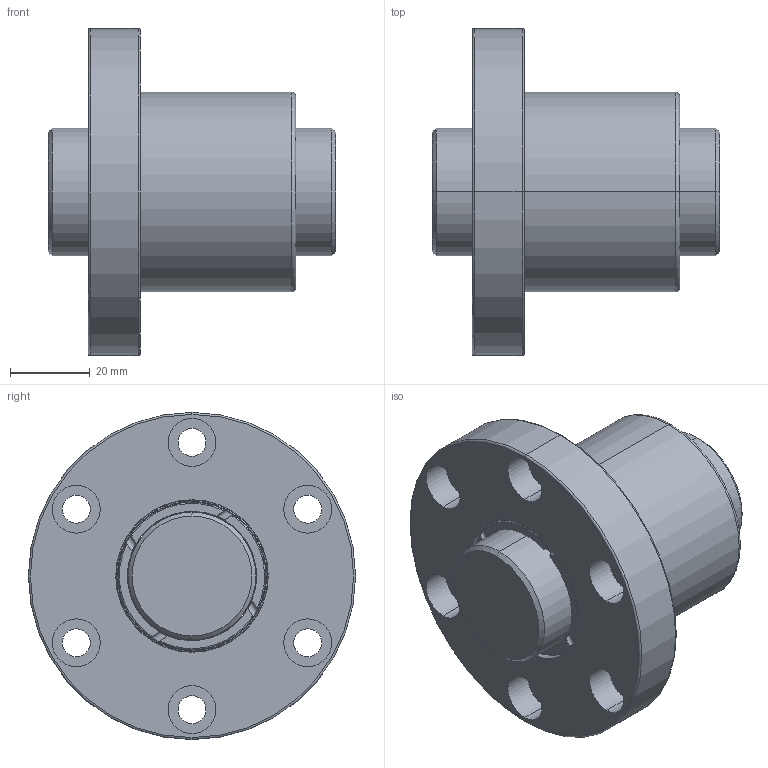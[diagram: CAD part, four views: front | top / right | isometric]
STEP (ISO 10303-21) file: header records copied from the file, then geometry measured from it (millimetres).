
FILE_DESCRIPTION (( 'STEP AP203' ), '1' );
FILE_NAME ('SFZR03205T4N-C.STEP', '2020-06-18T00:58:52', ( '' ), ( '' ), 'SwSTEP 2.0', 'SolidWorks 2013', '' );
FILE_SCHEMA (( 'CONFIG_CONTROL_DESIGN' ));
Length unit declared in the file: millimetre
Products named in the file (1): SFZR03205T4N-C
Bounding box: 72 x 82 x 82 mm (x, y, z)
Volume: 150735.3 mm3; surface area: 37679.2 mm2
Topology: 2 solids, 2 shells, 117 faces, 282 edges, 182 vertices
Faces by surface type: cylinder 62, torus 26, plane 25, cone 4
Entity records: 4499 total; most frequent: CARTESIAN_POINT 1630, DIRECTION 614, ORIENTED_EDGE 564, EDGE_CURVE 282, AXIS2_PLACEMENT_3D 274, VERTEX_POINT 182, CIRCLE 156, EDGE_LOOP 144
